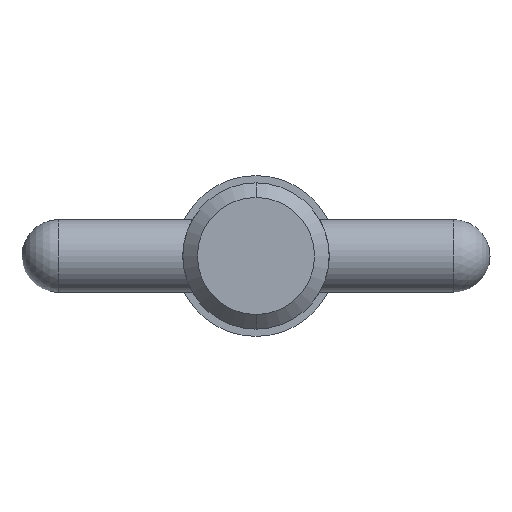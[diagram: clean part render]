
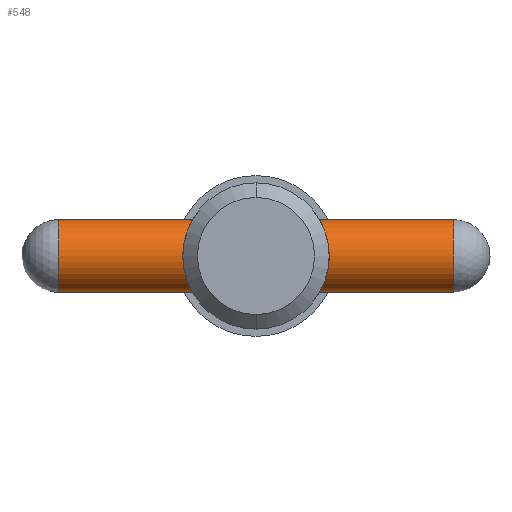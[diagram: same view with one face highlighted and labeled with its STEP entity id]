
A CAD part, left-side view. The second image highlights one B-rep face of the part: STEP entity #548.
In plain terms, the highlighted cylindrical face has radius 1.98 mm (diameter 3.96 mm), a partial arc.
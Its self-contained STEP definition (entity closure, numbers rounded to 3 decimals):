
#4 = FACE_OUTER_BOUND ( 'NONE', #829, .T. ) ;
#24 = VERTEX_POINT ( 'NONE', #803 ) ;
#32 = DIRECTION ( 'NONE',  ( 0., 1., 0. ) ) ;
#46 = EDGE_CURVE ( 'NONE', #24, #877, #325, .T. ) ;
#83 = CARTESIAN_POINT ( 'NONE',  ( 0., 12.7, 1.98 ) ) ;
#117 = CARTESIAN_POINT ( 'NONE',  ( 0., 12.7, -1.98 ) ) ;
#133 = CARTESIAN_POINT ( 'NONE',  ( 0., -10.72, -1.98 ) ) ;
#167 = DIRECTION ( 'NONE',  ( 0., -1., 0. ) ) ;
#210 = VERTEX_POINT ( 'NONE', #263 ) ;
#250 = ORIENTED_EDGE ( 'NONE', *, *, #719, .F. ) ;
#254 = EDGE_CURVE ( 'NONE', #877, #279, #586, .T. ) ;
#263 = CARTESIAN_POINT ( 'NONE',  ( 0., 10.72, 1.98 ) ) ;
#275 = CARTESIAN_POINT ( 'NONE',  ( 0., -10.72, 0. ) ) ;
#279 = VERTEX_POINT ( 'NONE', #360 ) ;
#293 = AXIS2_PLACEMENT_3D ( 'NONE', #275, #32, #345 ) ;
#296 = AXIS2_PLACEMENT_3D ( 'NONE', #871, #167, #950 ) ;
#316 = CARTESIAN_POINT ( 'NONE',  ( 0., 10.72, 0. ) ) ;
#325 = LINE ( 'NONE', #117, #736 ) ;
#345 = DIRECTION ( 'NONE',  ( 0., 0., -1. ) ) ;
#360 = CARTESIAN_POINT ( 'NONE',  ( 0., -10.72, 1.98 ) ) ;
#417 = DIRECTION ( 'NONE',  ( 0., -1., 0. ) ) ;
#469 = DIRECTION ( 'NONE',  ( 0., -1., 0. ) ) ;
#483 = DIRECTION ( 'NONE',  ( 0., -1., 0. ) ) ;
#548 = ADVANCED_FACE ( 'NONE', ( #4 ), #634, .T. ) ;
#554 = DIRECTION ( 'NONE',  ( 0., 0., -1. ) ) ;
#573 = EDGE_CURVE ( 'NONE', #210, #24, #608, .T. ) ;
#575 = ORIENTED_EDGE ( 'NONE', *, *, #46, .T. ) ;
#586 = CIRCLE ( 'NONE', #293, 1.98 ) ;
#590 = ORIENTED_EDGE ( 'NONE', *, *, #254, .T. ) ;
#608 = CIRCLE ( 'NONE', #790, 1.98 ) ;
#634 = CYLINDRICAL_SURFACE ( 'NONE', #296, 1.98 ) ;
#656 = VECTOR ( 'NONE', #483, 1000. ) ;
#678 = ORIENTED_EDGE ( 'NONE', *, *, #573, .T. ) ;
#719 = EDGE_CURVE ( 'NONE', #210, #279, #951, .T. ) ;
#736 = VECTOR ( 'NONE', #417, 1000. ) ;
#790 = AXIS2_PLACEMENT_3D ( 'NONE', #316, #469, #554 ) ;
#803 = CARTESIAN_POINT ( 'NONE',  ( 0., 10.72, -1.98 ) ) ;
#829 = EDGE_LOOP ( 'NONE', ( #250, #678, #575, #590 ) ) ;
#871 = CARTESIAN_POINT ( 'NONE',  ( 0., 12.7, 0. ) ) ;
#877 = VERTEX_POINT ( 'NONE', #133 ) ;
#950 = DIRECTION ( 'NONE',  ( 0., 0., -1. ) ) ;
#951 = LINE ( 'NONE', #83, #656 ) ;
